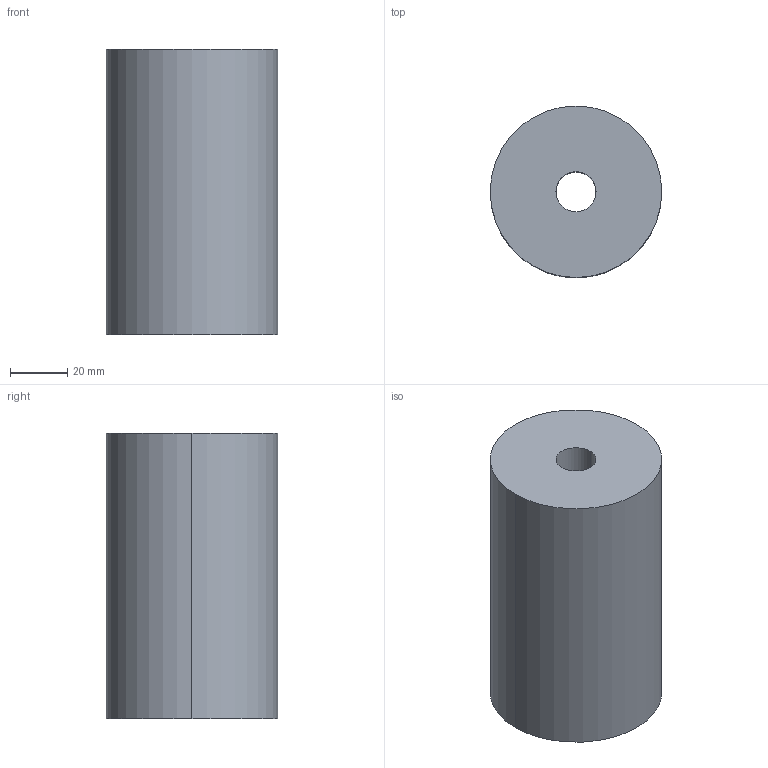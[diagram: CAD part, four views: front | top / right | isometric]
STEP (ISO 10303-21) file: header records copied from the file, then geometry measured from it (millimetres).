
FILE_DESCRIPTION(/* description */ (''),/* implementation_level */ '2;1');
FILE_NAME(/* name */ '3d_pa60-100_04899_r00.stp',/* time_stamp */ '2011-01-10T14:11:58+09:00',/* author */ ('MISUMI'),/* organization */ (''),/* preprocessor_version */ 'ST-DEVELOPER v11',/* originating_system */ 'UGS - NX 5.0',/* authorisation */ '');
FILE_SCHEMA (('CONFIG_CONTROL_DESIGN'));
Length unit declared in the file: millimetre
Products named in the file (1): 3d_pa60-100_04899_r00
Bounding box: 60 x 60 x 100 mm (x, y, z)
Volume: 267349.5 mm3; surface area: 28594.8 mm2
Topology: 1 solids, 1 shells, 6 faces, 12 edges, 8 vertices
Faces by surface type: cylinder 4, plane 2
Entity records: 254 total; most frequent: DIRECTION 34, CARTESIAN_POINT 27, ORIENTED_EDGE 24, AXIS2_PLACEMENT_3D 15, EDGE_CURVE 12, EDGE_LOOP 8, VERTEX_POINT 8, CIRCLE 8
